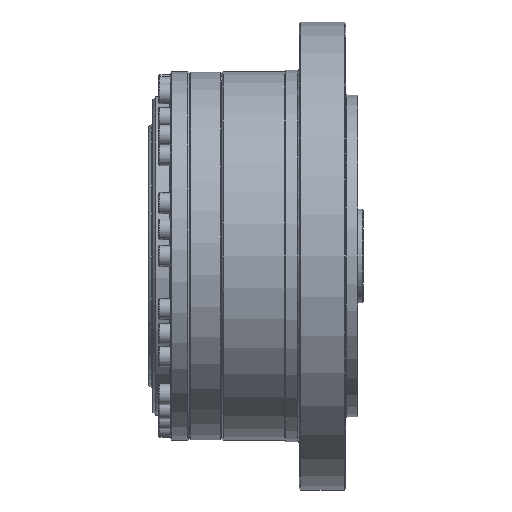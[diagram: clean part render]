
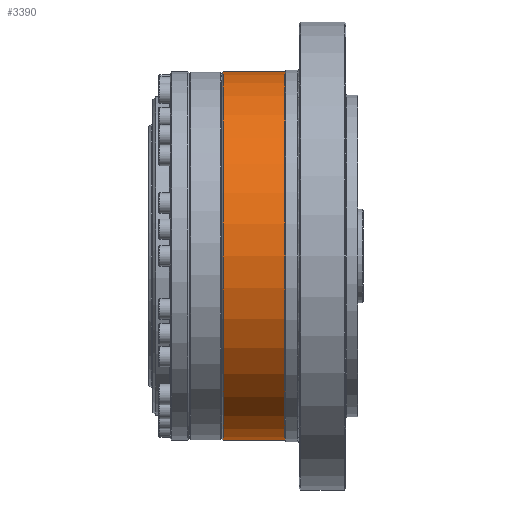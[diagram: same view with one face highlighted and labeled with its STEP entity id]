
A CAD part, front view. The second image highlights one B-rep face of the part: STEP entity #3390.
In plain terms, the highlighted cylindrical face has radius 63 mm (diameter 126 mm), a full revolution.
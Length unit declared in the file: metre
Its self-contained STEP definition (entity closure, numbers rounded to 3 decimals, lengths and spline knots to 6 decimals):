
#2428 = CARTESIAN_POINT ( 'NONE',  ( -0.0183, 0., 0.063 ) ) ;
#3390 = ADVANCED_FACE ( 'NONE', ( #39148, #36012 ), #35314, .T. ) ;
#3978 = DIRECTION ( 'NONE',  ( 0., 0., 1. ) ) ;
#8060 = DIRECTION ( 'NONE',  ( 1., 0., 0. ) ) ;
#8292 = ORIENTED_EDGE ( 'NONE', *, *, #23108, .T. ) ;
#11253 = EDGE_LOOP ( 'NONE', ( #8292 ) ) ;
#15343 = CARTESIAN_POINT ( 'NONE',  ( -0.0183, 0., 0. ) ) ;
#17493 = CARTESIAN_POINT ( 'NONE',  ( 0.0027, 0., 0.063 ) ) ;
#20535 = DIRECTION ( 'NONE',  ( 0., 0., 1. ) ) ;
#20566 = VERTEX_POINT ( 'NONE', #2428 ) ;
#23108 = EDGE_CURVE ( 'NONE', #20566, #20566, #46382, .T. ) ;
#25525 = AXIS2_PLACEMENT_3D ( 'NONE', #15343, #8060, #3978 ) ;
#26210 = AXIS2_PLACEMENT_3D ( 'NONE', #34576, #27795, #30477 ) ;
#27795 = DIRECTION ( 'NONE',  ( -1., 0., 0. ) ) ;
#28067 = DIRECTION ( 'NONE',  ( -1., 0., 0. ) ) ;
#30477 = DIRECTION ( 'NONE',  ( 0., 0., 1. ) ) ;
#34576 = CARTESIAN_POINT ( 'NONE',  ( 0.0027, 0., 0. ) ) ;
#35314 = CYLINDRICAL_SURFACE ( 'NONE', #44047, 0.063 ) ;
#36012 = FACE_OUTER_BOUND ( 'NONE', #11253, .T. ) ;
#36111 = VERTEX_POINT ( 'NONE', #17493 ) ;
#39148 = FACE_OUTER_BOUND ( 'NONE', #45341, .T. ) ;
#41313 = ORIENTED_EDGE ( 'NONE', *, *, #45887, .T. ) ;
#43280 = CARTESIAN_POINT ( 'NONE',  ( -0.022, 0., 0. ) ) ;
#44047 = AXIS2_PLACEMENT_3D ( 'NONE', #43280, #28067, #20535 ) ;
#45341 = EDGE_LOOP ( 'NONE', ( #41313 ) ) ;
#45887 = EDGE_CURVE ( 'NONE', #36111, #36111, #47038, .T. ) ;
#46382 = CIRCLE ( 'NONE', #25525, 0.063 ) ;
#47038 = CIRCLE ( 'NONE', #26210, 0.063 ) ;
